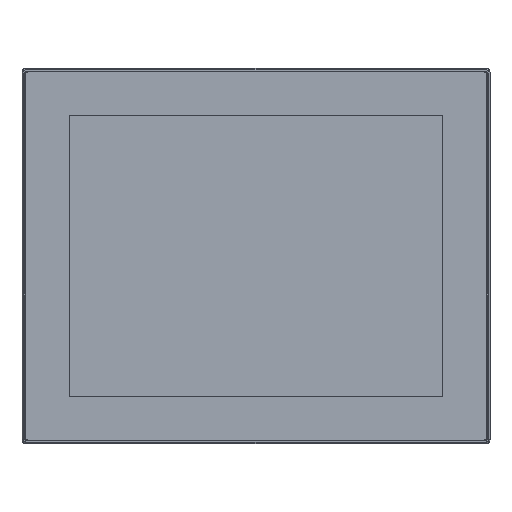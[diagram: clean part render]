
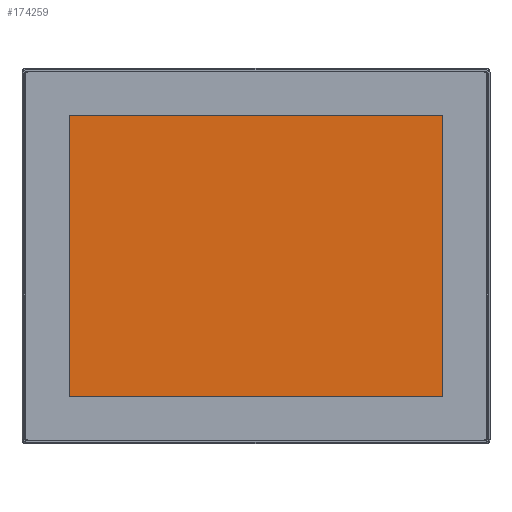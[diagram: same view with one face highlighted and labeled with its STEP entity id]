
A CAD part, top view. The second image highlights one B-rep face of the part: STEP entity #174259.
In plain terms, the highlighted planar face has unit normal (0, 0, 1).
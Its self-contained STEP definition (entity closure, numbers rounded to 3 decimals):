
#173788=DIRECTION('',(0.,-1.,0.));
#173789=VECTOR('',#173788,9.059);
#173790=CARTESIAN_POINT('',(-6.026,4.53,
0.244));
#173791=LINE('',#173790,#173789);
#173792=DIRECTION('',(-1.,0.,0.));
#173793=VECTOR('',#173792,12.051);
#173794=CARTESIAN_POINT('',(6.026,4.53,
0.244));
#173795=LINE('',#173794,#173793);
#173796=DIRECTION('',(0.,1.,0.));
#173797=VECTOR('',#173796,9.059);
#173798=CARTESIAN_POINT('',(6.026,-4.53,
0.244));
#173799=LINE('',#173798,#173797);
#173800=DIRECTION('',(1.,0.,0.));
#173801=VECTOR('',#173800,12.051);
#173802=CARTESIAN_POINT('',(-6.026,-4.53,
0.244));
#173803=LINE('',#173802,#173801);
#173868=CARTESIAN_POINT('',(-6.026,4.53,
0.244));
#173869=CARTESIAN_POINT('',(-6.026,-4.53,
0.244));
#173870=VERTEX_POINT('',#173868);
#173871=VERTEX_POINT('',#173869);
#173872=CARTESIAN_POINT('',(6.026,-4.53,
0.244));
#173873=VERTEX_POINT('',#173872);
#173874=CARTESIAN_POINT('',(6.026,4.53,
0.244));
#173875=VERTEX_POINT('',#173874);
#174248=CARTESIAN_POINT('',(0.,0.,0.244));
#174249=DIRECTION('',(0.,0.,1.));
#174250=DIRECTION('',(1.,0.,0.));
#174251=AXIS2_PLACEMENT_3D('',#174248,#174249,#174250);
#174252=PLANE('',#174251);
#174253=ORIENTED_EDGE('',*,*,#174200,.F.);
#174254=ORIENTED_EDGE('',*,*,#174215,.F.);
#174255=ORIENTED_EDGE('',*,*,#174229,.F.);
#174256=ORIENTED_EDGE('',*,*,#174242,.F.);
#174257=EDGE_LOOP('',(#174253,#174254,#174255,#174256));
#174258=FACE_OUTER_BOUND('',#174257,.F.);
#174259=ADVANCED_FACE('',(#174258),#174252,.T.);
#174200=EDGE_CURVE('',#173870,#173871,#173791,.T.);
#174215=EDGE_CURVE('',#173875,#173870,#173795,.T.);
#174229=EDGE_CURVE('',#173873,#173875,#173799,.T.);
#174242=EDGE_CURVE('',#173871,#173873,#173803,.T.);
